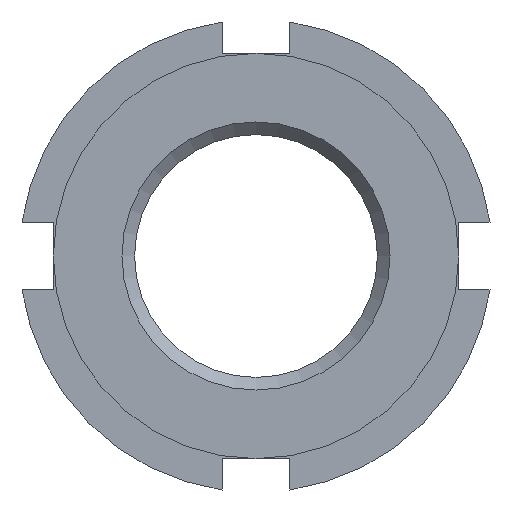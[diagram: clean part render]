
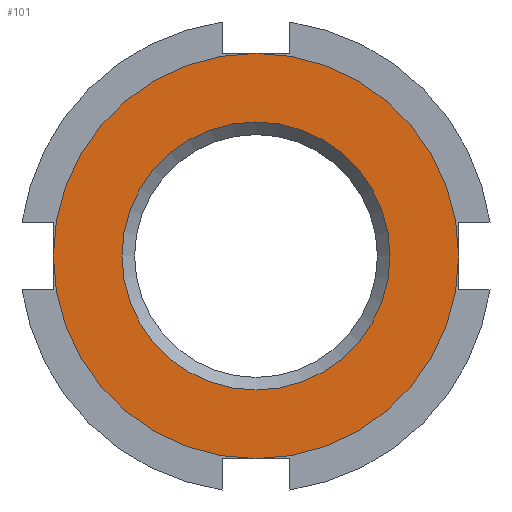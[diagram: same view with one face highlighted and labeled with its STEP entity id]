
A CAD part, left-side view. The second image highlights one B-rep face of the part: STEP entity #101.
In plain terms, the highlighted planar face has unit normal (-1, 0, 0).
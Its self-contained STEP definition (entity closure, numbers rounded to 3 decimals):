
#101 = ADVANCED_FACE( '', ( #169, #170 ), #171, .F. );
#169 = FACE_OUTER_BOUND( '', #247, .T. );
#170 = FACE_BOUND( '', #248, .T. );
#171 = PLANE( '', #249 );
#247 = EDGE_LOOP( '', ( #462 ) );
#248 = EDGE_LOOP( '', ( #463 ) );
#249 = AXIS2_PLACEMENT_3D( '', #464, #465, #466 );
#462 = ORIENTED_EDGE( '', *, *, #571, .F. );
#463 = ORIENTED_EDGE( '', *, *, #550, .T. );
#464 = CARTESIAN_POINT( '', ( 0., 0., 0. ) );
#465 = DIRECTION( '', ( 1., 0., 0. ) );
#466 = DIRECTION( '', ( 0., 0., -1. ) );
#550 = EDGE_CURVE( '', #656, #656, #657, .T. );
#571 = EDGE_CURVE( '', #685, #685, #686, .T. );
#656 = VERTEX_POINT( '', #829 );
#657 = CIRCLE( '', #830, 7.938 );
#685 = VERTEX_POINT( '', #869 );
#686 = CIRCLE( '', #870, 12. );
#829 = CARTESIAN_POINT( '', ( 0., 0., -7.938 ) );
#830 = AXIS2_PLACEMENT_3D( '', #947, #948, #949 );
#869 = CARTESIAN_POINT( '', ( 0., 0., -12. ) );
#870 = AXIS2_PLACEMENT_3D( '', #994, #995, #996 );
#947 = CARTESIAN_POINT( '', ( 0., 0., 0. ) );
#948 = DIRECTION( '', ( 1., 0., 0. ) );
#949 = DIRECTION( '', ( 0., 0., -1. ) );
#994 = CARTESIAN_POINT( '', ( 0., 0., 0. ) );
#995 = DIRECTION( '', ( 1., 0., 0. ) );
#996 = DIRECTION( '', ( 0., 0., -1. ) );
